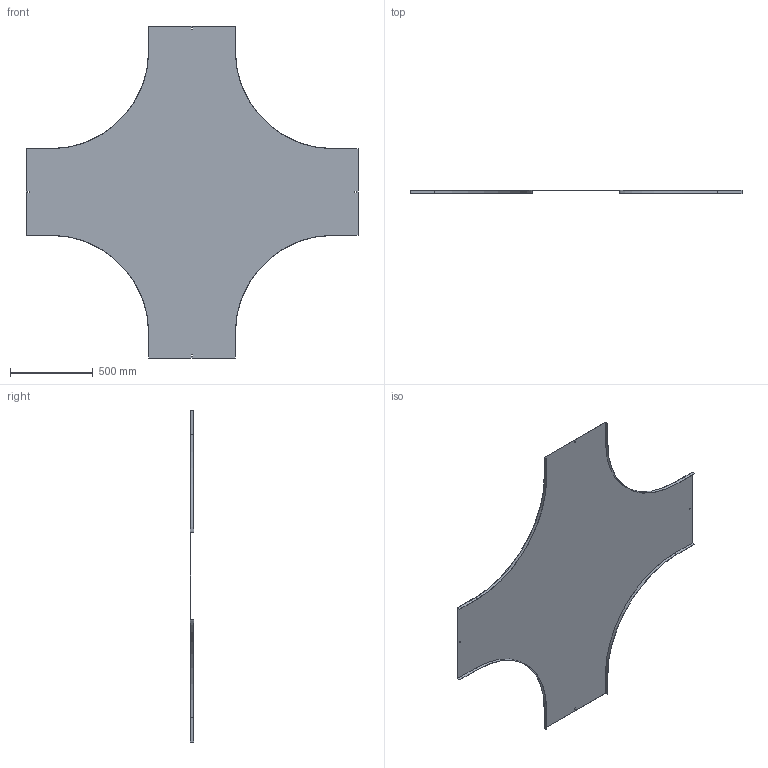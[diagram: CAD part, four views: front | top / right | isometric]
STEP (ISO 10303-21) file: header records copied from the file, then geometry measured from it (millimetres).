
FILE_DESCRIPTION (( 'STEP AP214' ), '1' );
FILE_NAME ('17N6P500.step', '2025-02-21T13:57:40', ( '' ), ( '' ), 'SwSTEP 2.0', 'SolidWorks 2023', '' );
FILE_SCHEMA (( 'AUTOMOTIVE_DESIGN' ));
Length unit declared in the file: millimetre
Products named in the file (1): 17N6P500
Bounding box: 2000 x 20 x 2000 mm (x, y, z)
Volume: 3309337.4 mm3; surface area: 4423342.4 mm2
Topology: 1 solids, 1 shells, 50 faces, 144 edges, 96 vertices
Faces by surface type: plane 42, cylinder 8
Entity records: 1663 total; most frequent: CARTESIAN_POINT 291, ORIENTED_EDGE 288, DIRECTION 262, EDGE_CURVE 144, LINE 128, VECTOR 128, VERTEX_POINT 96, AXIS2_PLACEMENT_3D 67
